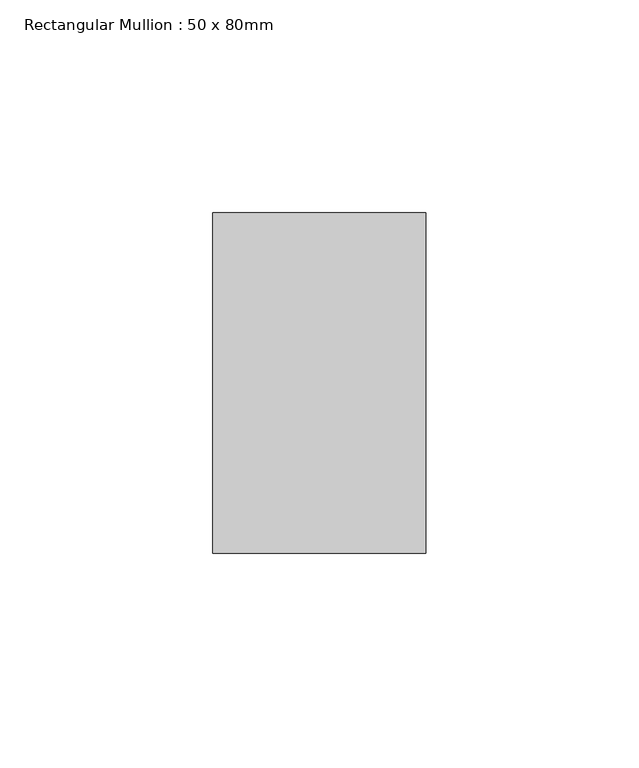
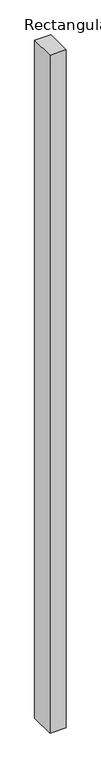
"""IFC4 building model written with IfcOpenShell, lengths in millimetres: member geometry, Rectangular Mullion : 50 x 80mm."""

from ifc_helpers import new_model, si_unit, frame, origin, place, context, project, spatial, polyline, outline, extrude, source, transform, mapped, element, save


def rectangular_mullion_50_x_80mm_2e97effb(model_context):
    return source(origin(), model_context, "Body", "SweptSolid", [
        extrude(outline(polyline([(0.0, 25.0), (0.0, -55.0), (-50.0, -55.0), (-50.0, 25.0), (0.0, 25.0)])), frame((0.0, 0.0, -2184.1033932), z_axis=(0.0, 0.0, 1.0), x_axis=(1.0, 0.0, 0.0)), (0.0, 0.0, 1.0), 2184.1033932),
    ])


if __name__ == "__main__":
    model = new_model("IFC4")
    model_context = context("Model", 3, world=origin())
    ifc_project = project(units=[si_unit("LENGTHUNIT", "METRE", prefix="MILLI")], contexts=[model_context])
    site = spatial("IfcSite", under=ifc_project)
    building = spatial("IfcBuilding", under=site)
    placement = place(None, origin())
    rectangular_mullion_50_x_80mm_shape = rectangular_mullion_50_x_80mm_2e97effb(model_context)
    element("IfcMember", 1, ObjectType="Rectangular Mullion : 50 x 80mm", at=placement, inside=building, context=model_context, shape_type="MappedRepresentation", body=[
        mapped(rectangular_mullion_50_x_80mm_shape, transform((0.0, 0.0, 0.0), x_axis=(1.0, 0.0, 0.0), y_axis=(0.0, 1.0, 0.0), z_axis=(0.0, 0.0, 1.0))),
    ])
    save(model, "model.ifc")
